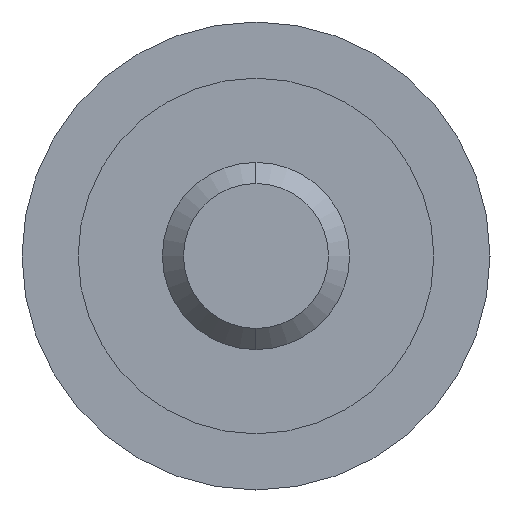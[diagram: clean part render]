
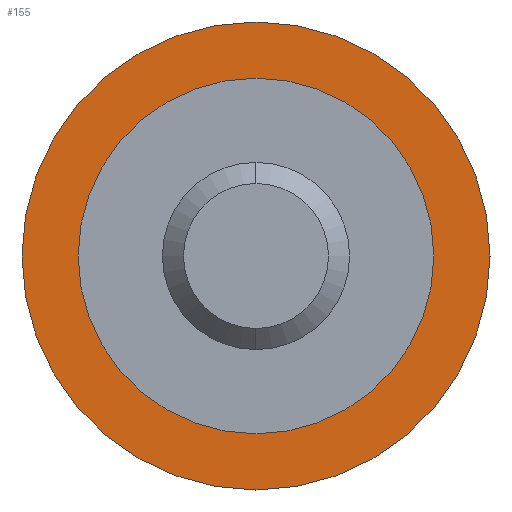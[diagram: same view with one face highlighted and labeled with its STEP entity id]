
A CAD part, left-side view. The second image highlights one B-rep face of the part: STEP entity #155.
In plain terms, the highlighted planar face has unit normal (-1, 0, 0).
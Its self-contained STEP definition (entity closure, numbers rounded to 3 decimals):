
#37 = CARTESIAN_POINT ( 'NONE',  ( -5., 0., 3.8 ) ) ;
#50 = DIRECTION ( 'NONE',  ( 0., 0., 1. ) ) ;
#65 = DIRECTION ( 'NONE',  ( -1., 0., 0. ) ) ;
#67 = AXIS2_PLACEMENT_3D ( 'NONE', #357, #419, #94 ) ;
#81 = EDGE_LOOP ( 'NONE', ( #558, #669 ) ) ;
#94 = DIRECTION ( 'NONE',  ( 0., 0., 1. ) ) ;
#98 = FACE_BOUND ( 'NONE', #237, .T. ) ;
#143 = EDGE_CURVE ( 'NONE', #330, #497, #617, .T. ) ;
#155 = ADVANCED_FACE ( 'NONE', ( #98, #254 ), #159, .F. ) ;
#159 = PLANE ( 'NONE',  #473 ) ;
#183 = ORIENTED_EDGE ( 'NONE', *, *, #354, .F. ) ;
#205 = CARTESIAN_POINT ( 'NONE',  ( -5., 0., 0. ) ) ;
#223 = CARTESIAN_POINT ( 'NONE',  ( -5., 0., 5. ) ) ;
#237 = EDGE_LOOP ( 'NONE', ( #653, #183 ) ) ;
#254 = FACE_OUTER_BOUND ( 'NONE', #81, .T. ) ;
#313 = EDGE_CURVE ( 'NONE', #497, #330, #355, .T. ) ;
#323 = CARTESIAN_POINT ( 'NONE',  ( -5., 0., 0. ) ) ;
#330 = VERTEX_POINT ( 'NONE', #406 ) ;
#354 = EDGE_CURVE ( 'NONE', #402, #596, #591, .T. ) ;
#355 = CIRCLE ( 'NONE', #67, 5. ) ;
#357 = CARTESIAN_POINT ( 'NONE',  ( -5., 0., 0. ) ) ;
#391 = DIRECTION ( 'NONE',  ( 1., 0., 0. ) ) ;
#402 = VERTEX_POINT ( 'NONE', #461 ) ;
#406 = CARTESIAN_POINT ( 'NONE',  ( -5., 0., -5. ) ) ;
#416 = CARTESIAN_POINT ( 'NONE',  ( -5., 0., 0. ) ) ;
#419 = DIRECTION ( 'NONE',  ( -1., 0., 0. ) ) ;
#423 = AXIS2_PLACEMENT_3D ( 'NONE', #416, #622, #50 ) ;
#432 = DIRECTION ( 'NONE',  ( 0., 0., 1. ) ) ;
#461 = CARTESIAN_POINT ( 'NONE',  ( -5., 0., -3.8 ) ) ;
#473 = AXIS2_PLACEMENT_3D ( 'NONE', #644, #391, #588 ) ;
#475 = AXIS2_PLACEMENT_3D ( 'NONE', #323, #65, #632 ) ;
#497 = VERTEX_POINT ( 'NONE', #223 ) ;
#530 = AXIS2_PLACEMENT_3D ( 'NONE', #205, #628, #432 ) ;
#558 = ORIENTED_EDGE ( 'NONE', *, *, #313, .T. ) ;
#568 = EDGE_CURVE ( 'NONE', #596, #402, #592, .T. ) ;
#588 = DIRECTION ( 'NONE',  ( 0., 0., -1. ) ) ;
#591 = CIRCLE ( 'NONE', #423, 3.8 ) ;
#592 = CIRCLE ( 'NONE', #475, 3.8 ) ;
#596 = VERTEX_POINT ( 'NONE', #37 ) ;
#617 = CIRCLE ( 'NONE', #530, 5. ) ;
#622 = DIRECTION ( 'NONE',  ( -1., 0., 0. ) ) ;
#628 = DIRECTION ( 'NONE',  ( -1., 0., 0. ) ) ;
#632 = DIRECTION ( 'NONE',  ( 0., 0., 1. ) ) ;
#644 = CARTESIAN_POINT ( 'NONE',  ( -5., 3.8, 0. ) ) ;
#653 = ORIENTED_EDGE ( 'NONE', *, *, #568, .F. ) ;
#669 = ORIENTED_EDGE ( 'NONE', *, *, #143, .T. ) ;
